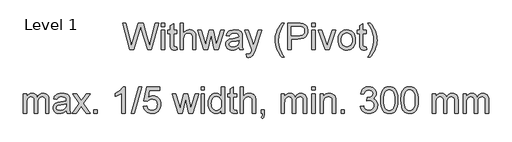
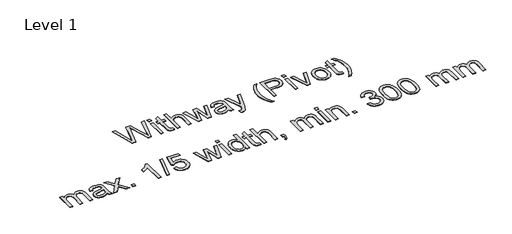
# One storey, part 75 of 80: 1 proxy.
"""IFC4 building model written with IfcOpenShell, lengths in millimetres."""

from ifc_helpers import new_model, si_unit, origin, origin_with_axes, place, context, project, spatial, polyline, outline, extrude, element, save

model = new_model("IFC4")

# Units and contexts
model_context = context("Model", 3, world=origin())
ifc_project = project(units=[si_unit("LENGTHUNIT", "METRE", prefix="MILLI")], contexts=[model_context])

# Site, building, storey
site = spatial("IfcSite", under=ifc_project)
building = spatial("IfcBuilding", under=site)
storey = spatial("IfcBuildingStorey", under=building, Name="Level 1", Elevation=0.0)

# Proxy
placement = place(None, origin())
element("IfcBuildingElementProxy", 1, Name="800mm Arial", ObjectType="800mm Arial", at=placement, inside=storey, context=model_context, shape_type="SweptSolid", body=[
    extrude(outline(polyline([(265942.2428784, 74494.5731746), (265724.245521, 75293.961873), (265827.2917204, 75293.961873), (265953.7575105, 74768.5823867), (265992.7901618, 74606.4017206), (266034.5550987, 74749.8467141), (266193.0276629, 75293.961873), (266341.5469011, 75293.961873), (266456.6932224, 74899.5369317), (266506.0207354, 74753.1644894), (266542.3698919, 74606.4017206), (266580.2315637, 74763.8984685), (266707.8683334, 75293.961873), (266810.9145328, 75293.961873), (266592.7220121, 74494.5731746), (266485.9677108, 74494.5731746), (266294.317393, 75111.289065), (266267.5800269, 75197.3560611), (266237.5248854, 75093.7243719), (266062.8537709, 74494.5731746), (265942.2428784, 74494.5731746)])), origin_with_axes(), (0.0, 0.0, 1.0), 5.0),
    extrude(outline(polyline([(266898.3476717, 74494.5731746), (266898.3476717, 75081.62425), (266998.271259, 75081.62425), (266998.271259, 74494.5731746), (266898.3476717, 74494.5731746)])), origin_with_axes(), (0.0, 0.0, 1.0), 5.0),
    extrude(outline(polyline([(266898.3476717, 75194.0382857), (266898.3476717, 75293.961873), (266998.271259, 75293.961873), (266998.271259, 75194.0382857), (266898.3476717, 75194.0382857)])), origin_with_axes(), (0.0, 0.0, 1.0), 5.0),
    extrude(outline(polyline([(267360.4942629, 74577.9078851), (267372.9847113, 74491.6457258), (267333.4153611, 74484.4734761), (267298.2371841, 74482.0827262), (267250.2758138, 74486.2299454), (267214.5121471, 74498.671603), (267189.2385054, 74517.846393), (267172.7472102, 74542.1930092), (267163.6721188, 74584.0067369), (267160.6470883, 74655.5828612), (267160.6470883, 74981.7006627), (267085.7043978, 74981.7006627), (267085.7043978, 75081.62425), (267160.6470883, 75081.62425), (267160.6470883, 75224.2885904), (267260.5706756, 75283.0327306), (267260.5706756, 75081.62425), (267360.4942629, 75081.62425), (267360.4942629, 74981.7006627), (267260.5706756, 74981.7006627), (267260.5706756, 74658.51031), (267261.8880276, 74625.6253013), (267265.8400835, 74606.9872104), (267272.7439837, 74596.6679532), (267282.9168685, 74588.7394459), (267297.334554, 74583.6895966), (267316.9728567, 74582.0063135), (267360.4942629, 74577.9078851)])), origin_with_axes(), (0.0, 0.0, 1.0), 5.0),
    extrude(outline(polyline([(267460.4178502, 74494.5731746), (267460.4178502, 75293.961873), (267560.3414375, 75293.961873), (267560.3414375, 75000.0460088), (267597.0443274, 75041.2010605), (267638.2603676, 75070.597526), (267683.9895581, 75088.2354053), (267734.231899, 75094.1146984), (267765.4702177, 75092.5107004), (267794.586136, 75087.6987063), (267821.5796539, 75079.6787163), (267846.4507714, 75068.4507302), (267868.5652079, 75054.3928769), (267887.2886828, 75037.8832851), (267902.6211961, 75018.921955), (267914.5627479, 74997.5088865), (267923.52806, 74972.3206287), (267929.9318543, 74942.0337308), (267935.0548898, 74866.1640149), (267935.0548898, 74494.5731746), (267835.1313025, 74494.5731746), (267835.1313025, 74855.8203623), (267833.1430769, 74889.5592103), (267827.1783998, 74918.370186), (267817.2372715, 74942.2532895), (267803.3196917, 74961.2085208), (267785.7549987, 74975.638404), (267764.8725302, 74985.9454635), (267740.6722864, 74992.1296992), (267713.1542673, 74994.1911111), (267670.9258177, 74988.6289583), (267631.2832812, 74971.9424999), (267613.4868317, 74959.8301803), (267598.4470633, 74945.7418327), (267586.1639758, 74929.6774572), (267576.6375694, 74911.6370536), (267564.4154705, 74866.3103873), (267560.3414375, 74806.4440584), (267560.3414375, 74494.5731746), (267460.4178502, 74494.5731746)])), origin_with_axes(), (0.0, 0.0, 1.0), 5.0),
    extrude(outline(polyline([(268169.8362873, 74494.5731746), (267991.2619077, 75081.62425), (268095.0887601, 75081.62425), (268196.3784902, 74739.112735), (268226.6287949, 74616.7453732), (268251.4145285, 74734.6239801), (268332.0169534, 75081.62425), (268451.0665398, 75081.62425), (268531.2786382, 74735.5997963), (268553.3320862, 74628.8454951), (268584.9485337, 74741.454694), (268686.4334271, 75081.62425), (268790.650606, 75081.62425), (268610.7100836, 74494.5731746), (268489.9040279, 74494.5731746), (268413.2048681, 74838.841159), (268390.9562568, 74946.18095), (268292.0084858, 74494.5731746), (268169.8362873, 74494.5731746)])), origin_with_axes(), (0.0, 0.0, 1.0), 5.0),
    extrude(outline(polyline([(269234.0615246, 74569.5158651), (269186.319713, 74528.5803721), (269161.9182071, 74513.4186266), (269137.1629678, 74501.7942151), (269085.4691003, 74487.0105985), (269030.1159217, 74482.0827262), (268985.624798, 74485.0467682), (268946.6104433, 74493.9388941), (268913.0728575, 74508.7591038), (268885.0120405, 74529.5073975), (268862.854912, 74554.8664232), (268847.0283917, 74583.5188288), (268837.5324795, 74615.4646143), (268834.3671755, 74650.7037798), (268839.1486752, 74692.127181), (268853.4931746, 74729.7448986), (268875.6198088, 74761.946836), (268903.7477131, 74787.122896), (268936.8034897, 74806.1513135), (268973.7137406, 74819.9103231), (269060.1710631, 74834.9378939), (269162.3390279, 74850.7461176), (269233.4760349, 74869.286627), (269234.0615246, 74891.5352382), (269232.3416484, 74915.7598774), (269227.1820198, 74936.1300423), (269218.5826389, 74952.6457329), (269206.5435055, 74965.3069492), (269185.7342233, 74977.94377), (269160.3873953, 74986.9700706), (269130.5030217, 74992.385851), (269096.0811023, 74994.1911111), (269036.5563091, 74989.3852159), (269013.5270449, 74983.3778469), (268994.9865355, 74974.9675304), (268979.7516038, 74963.4955902), (268966.6390725, 74948.3033504), (268955.6489416, 74929.3908111), (268946.7812112, 74906.7579722), (268846.8576239, 74919.2484206), (268864.2027583, 74973.8941324), (268876.0772227, 74996.8258151), (268890.0862852, 75016.8300489), (268906.8337321, 75034.309358), (268926.9233498, 75049.6662668), (268950.3551383, 75062.9007751), (268977.1290975, 75074.012883), (269038.5323371, 75089.0892445), (269108.9618773, 75094.1146984), (269176.5127594, 75089.6747343), (269230.0606779, 75076.3548421), (269270.4350765, 75056.3262129), (269298.4653993, 75031.760038), (269317.0546994, 75001.3877562), (269329.1060305, 74963.9408064), (269332.7653416, 74929.39691), (269333.9851119, 74876.5076675), (269333.9851119, 74752.1886731), (269335.2536731, 74643.8974612), (269339.0593566, 74578.5909565), (269346.573142, 74535.6794355), (269358.9660087, 74494.5731746), (269259.0424215, 74494.5731746), (269243.0390344, 74529.3122343), (269234.0615246, 74569.5158651)]), holes=[polyline([(269234.0615246, 74769.3630397), (269166.9253644, 74752.7253721), (269072.8566748, 74738.7224084), (269021.0164348, 74731.0622506), (268986.8872604, 74722.5238582), (268964.5166721, 74711.4483434), (268947.9521907, 74696.1768185), (268937.7061197, 74677.8802632), (268934.2907628, 74657.729657), (268936.1509125, 74642.2019804), (268941.7313619, 74628.0160512), (268951.0321108, 74615.1718694), (268964.0531594, 74603.669435), (268980.6725304, 74594.1918194), (269000.768247, 74587.4220939), (269051.3887166, 74582.0063135), (269105.0586121, 74587.9831883), (269129.5516008, 74595.4542817), (269152.4832834, 74605.9138124), (269190.930445, 74632.3340383), (269217.6678111, 74663.779718), (269229.5239789, 74696.1768185), (269233.4760349, 74741.0643675), (269234.0615246, 74769.3630397)])]), origin_with_axes(), (0.0, 0.0, 1.0), 5.0),
    extrude(outline(polyline([(269471.3800444, 74269.7451032), (269458.889596, 74365.9605887), (269486.1148703, 74359.3738288), (269509.6320427, 74357.1782421), (269536.320618, 74359.9349231), (269557.056714, 74368.2049661), (269573.2064735, 74381.4028813), (269586.1360392, 74398.943179), (269613.4588951, 74472.5197267), (269621.2654254, 74496.7199705), (269408.9278024, 75081.62425), (269514.3159609, 75081.62425), (269626.9251598, 74755.7016118), (269666.1529744, 74625.3325565), (269705.3807889, 74740.4788777), (269821.1126, 75081.62425), (269925.7201054, 75081.62425), (269721.3841759, 74480.5214202), (269691.0362896, 74400.6020667), (269668.2997702, 74350.1523649), (269641.1232867, 74308.5338005), (269610.336283, 74279.6984293), (269593.2473004, 74269.879278), (269574.5726163, 74262.8655984), (269532.4661437, 74257.2546548), (269503.5331909, 74260.3772669), (269471.3800444, 74269.7451032)])), origin_with_axes(), (0.0, 0.0, 1.0), 5.0),
    extrude(outline(polyline([(270520.577711, 74269.7451032), (270480.2399055, 74321.9390766), (270443.146689, 74378.4022463), (270409.2980617, 74439.1346121), (270378.6940236, 74504.1361742), (270353.334998, 74571.8822196), (270335.2214082, 74640.8480353), (270324.3532544, 74711.0336214), (270320.7305364, 74782.4389779), (270323.4384266, 74845.1961625), (270331.5620972, 74906.6115998), (270345.1015481, 74966.6852897), (270364.0567794, 75025.4172321), (270392.8677551, 75092.772951), (270428.5582356, 75159.9822974), (270471.1282209, 75227.0452714), (270520.577711, 75293.961873), (270595.5204015, 75293.961873), (270536.7274705, 75198.9661579), (270502.0372017, 75135.684472), (270470.1280092, 75060.5466183), (270445.8301838, 74982.2861525), (270426.9481388, 74882.3137744), (270420.6541237, 74781.8534881), (270423.3864093, 74717.797248), (270431.5832661, 74653.7532057), (270445.244694, 74589.721361), (270464.3706932, 74525.701714), (270488.9612635, 74461.6942648), (270519.016405, 74397.6990132), (270554.5361176, 74333.7159594), (270595.5204015, 74269.7451032), (270520.577711, 74269.7451032)])), origin_with_axes(), (0.0, 0.0, 1.0), 5.0),
    extrude(outline(polyline([(270707.9344372, 74494.5731746), (270707.9344372, 75293.961873), (271004.1922605, 75293.961873), (271073.1824716, 75292.0590312), (271123.6321734, 75286.350506), (271176.887347, 75272.1279837), (271220.7258935, 75248.9767424), (271239.3334902, 75233.7906015), (271256.0260475, 75215.8477796), (271283.6660437, 75171.6920928), (271294.0828825, 75146.2537821), (271301.5234816, 75119.6078988), (271307.475961, 75062.6934141), (271303.4568176, 75013.6220528), (271291.3993877, 74968.4783521), (271271.3036711, 74927.2623119), (271243.169668, 74889.9739322), (271225.4753743, 74873.4155496), (271204.5456397, 74859.0649514), (271180.3804643, 74846.9221376), (271152.9798481, 74836.9871081), (271088.472293, 74823.740402), (271011.0229744, 74819.3248333), (270807.8580245, 74819.3248333), (270807.8580245, 74494.5731746), (270707.9344372, 74494.5731746)]), holes=[polyline([(270807.8580245, 74919.2484206), (271016.8778721, 74919.2484206), (271064.936824, 74921.5415889), (271105.4819905, 74928.4210937), (271138.5133717, 74939.886935), (271164.0309675, 74955.9391128), (271183.0715827, 74976.1507076), (271196.6720221, 75000.0947996), (271204.8322858, 75027.7713889), (271207.5523737, 75059.1804755), (271205.9483756, 75082.5024846), (271201.1363816, 75104.0680245), (271193.1163915, 75123.877095), (271181.8884054, 75141.9296962), (271168.0501108, 75157.6403384), (271152.1991951, 75170.4235317), (271134.3356582, 75180.2792761), (271114.4595003, 75187.2075717), (271075.9147572, 75192.3306072), (271014.5359131, 75194.0382857), (270807.8580245, 75194.0382857), (270807.8580245, 74919.2484206)])]), origin_with_axes(), (0.0, 0.0, 1.0), 5.0),
    extrude(outline(polyline([(271432.3804451, 75194.0382857), (271432.3804451, 75293.961873), (271532.3040324, 75293.961873), (271532.3040324, 75194.0382857), (271432.3804451, 75194.0382857)])), origin_with_axes(), (0.0, 0.0, 1.0), 5.0),
    extrude(outline(polyline([(271432.3804451, 74494.5731746), (271432.3804451, 75081.62425), (271532.3040324, 75081.62425), (271532.3040324, 74494.5731746), (271432.3804451, 74494.5731746)])), origin_with_axes(), (0.0, 0.0, 1.0), 5.0),
    extrude(outline(polyline([(271826.2198965, 74494.5731746), (271619.7371712, 75081.62425), (271725.5156562, 75081.62425), (271850.6153036, 74729.9400619), (271888.2818121, 74611.6711285), (271925.1676676, 74723.3045112), (272051.047968, 75081.62425), (272156.8264529, 75081.62425), (271952.88085, 74494.5731746), (271826.2198965, 74494.5731746)])), origin_with_axes(), (0.0, 0.0, 1.0), 5.0),
    extrude(outline(polyline([(272219.278695, 74788.0987123), (272224.6822777, 74864.1269984), (272231.436756, 74898.1982338), (272240.8930257, 74929.640864), (272253.0510866, 74958.4548892), (272267.910939, 74984.6403092), (272285.4725826, 75008.1971242), (272305.7360176, 75029.125334), (272343.817248, 75057.5581809), (272385.8505344, 75077.8673573), (272431.8358767, 75090.0528631), (272481.7732749, 75094.1146984), (272536.900796, 75089.1685296), (272586.7467115, 75074.3300233), (272631.3110213, 75049.5991794), (272670.5937255, 75014.9759979), (272702.6553892, 74971.6314584), (272725.5565776, 74920.7365405), (272739.2972906, 74862.291244), (272743.8775283, 74796.2955691), (272741.8527095, 74742.8086391), (272735.7782531, 74695.3473747), (272725.6541592, 74653.9117758), (272711.4804277, 74618.5018425), (272693.4339254, 74587.9161009), (272671.6915188, 74560.9530772), (272646.2532081, 74537.6127715), (272617.1189932, 74517.8951838), (272585.4232606, 74502.2272336), (272552.3003967, 74491.0358406), (272517.7504015, 74484.3210048), (272481.7732749, 74482.0827262), (272425.8407054, 74487.0105985), (272375.5312772, 74501.7942151), (272330.8449903, 74526.4335763), (272291.7818448, 74560.9286818), (272260.0617167, 74604.6940421), (272237.4044824, 74657.1441673), (272223.8101419, 74718.2790573), (272219.278695, 74788.0987123)]), holes=[polyline([(272319.2022823, 74788.2938756), (272322.093138, 74739.8263006), (272330.7657052, 74697.8601016), (272345.2199839, 74662.3952786), (272365.4559741, 74633.4318316), (272390.0709398, 74610.9331674), (272417.6621452, 74594.862693), (272448.2295902, 74585.2204084), (272481.7732749, 74582.0063135), (272515.1461918, 74585.238705), (272545.5916598, 74594.9358793), (272573.1096789, 74611.0978364), (272597.7002492, 74633.7245765), (272617.9362394, 74662.9746695), (272632.3905181, 74699.0066858), (272641.0630853, 74741.8206251), (272643.953941, 74791.4164877), (272641.0447887, 74838.347152), (272632.3173318, 74879.2155577), (272617.7715704, 74914.0217047), (272597.4075043, 74942.765593), (272572.7254512, 74965.2642572), (272545.2257286, 74981.3347316), (272514.9083365, 74990.9770162), (272481.7732749, 74994.1911111), (272448.2295902, 74990.9892139), (272417.6621452, 74981.3835224), (272390.0709398, 74965.3740365), (272365.4559741, 74942.9607563), (272345.2199839, 74914.0826932), (272330.7657052, 74878.6788587), (272322.093138, 74836.7492528), (272319.2022823, 74788.2938756)])]), origin_with_axes(), (0.0, 0.0, 1.0), 5.0),
    extrude(outline(polyline([(273068.629187, 74577.9078851), (273081.1196354, 74491.6457258), (273041.5502852, 74484.4734761), (273006.3721082, 74482.0827262), (272958.4107379, 74486.2299454), (272922.6470712, 74498.671603), (272897.3734295, 74517.846393), (272880.8821343, 74542.1930092), (272871.8070429, 74584.0067369), (272868.7820124, 74655.5828612), (272868.7820124, 74981.7006627), (272793.8393219, 74981.7006627), (272793.8393219, 75081.62425), (272868.7820124, 75081.62425), (272868.7820124, 75224.2885904), (272968.7055997, 75283.0327306), (272968.7055997, 75081.62425), (273068.629187, 75081.62425), (273068.629187, 74981.7006627), (272968.7055997, 74981.7006627), (272968.7055997, 74658.51031), (272970.0229517, 74625.6253013), (272973.9750076, 74606.9872104), (272980.8789078, 74596.6679532), (272991.0517926, 74588.7394459), (273005.4694781, 74583.6895966), (273025.1077808, 74582.0063135), (273068.629187, 74577.9078851)])), origin_with_axes(), (0.0, 0.0, 1.0), 5.0),
    extrude(outline(polyline([(273193.5336711, 74269.7451032), (273118.5909806, 74269.7451032), (273159.5752645, 74333.7159594), (273195.0949772, 74397.6990132), (273225.1501186, 74461.6942648), (273249.740689, 74525.701714), (273268.8666881, 74589.721361), (273282.528116, 74653.7532057), (273290.7249728, 74717.797248), (273293.4572584, 74781.8534881), (273287.1632434, 74881.5819121), (273268.2811983, 74980.5296832), (273244.4224902, 75058.9365214), (273212.6596702, 75134.123166), (273177.823029, 75198.0879233), (273118.5909806, 75293.961873), (273193.5336711, 75293.961873), (273242.9831612, 75227.0452714), (273285.5531465, 75159.9822974), (273321.243627, 75092.772951), (273350.0546028, 75025.4172321), (273369.009834, 74966.6852897), (273382.549285, 74906.6115998), (273390.6729555, 74845.1961625), (273393.3808457, 74782.4389779), (273389.7398312, 74711.0336214), (273378.8167877, 74640.8480353), (273360.6117152, 74571.8822196), (273335.1246136, 74504.1361742), (273304.4290927, 74439.1346121), (273270.598762, 74378.4022463), (273233.6336214, 74321.9390766), (273193.5336711, 74269.7451032)])), origin_with_axes(), (0.0, 0.0, 1.0), 5.0),
    extrude(outline(polyline([(262732.7831264, 72573.0368789), (262732.7831264, 73160.0879542), (262832.7067137, 73160.0879542), (262832.7067137, 73063.4821423), (262862.7618552, 73107.8573877), (262881.0096197, 73126.4405891), (262901.40418, 73142.6208428), (262923.6161981, 73155.7272752), (262947.316336, 73165.0890127), (262972.5045938, 73170.7060552), (262999.1809714, 73172.5784027), (263028.3456806, 73170.6694621), (263054.7537087, 73164.9426403), (263078.4050558, 73155.3979372), (263099.299722, 73142.035353), (263117.3767186, 73125.2330164), (263132.5750572, 73105.3690562), (263144.8947378, 73082.4434724), (263154.3357603, 73056.4562651), (263190.758103, 73107.2597003), (263210.8904127, 73127.2181927), (263232.3034812, 73143.5478683), (263254.9973086, 73156.2487271), (263278.9718949, 73165.3207691), (263304.2272401, 73170.7639943), (263330.7633441, 73172.5784027), (263370.7657128, 73169.559471), (263405.8768024, 73160.5026762), (263436.0966129, 73145.4080181), (263461.4251443, 73124.2754967), (263481.4476746, 73096.861158), (263495.749482, 73062.921048), (263504.3305664, 73022.4551665), (263507.1909279, 72975.4635137), (263507.1909279, 72573.0368789), (263407.2673406, 72573.0368789), (263407.2673406, 72932.5275972), (263404.949777, 72982.3674139), (263397.9970859, 73015.9598894), (263384.9699386, 73038.9647582), (263364.4290058, 73057.0417549), (263338.00878, 73068.7515502), (263307.3437533, 73072.6548154), (263279.0267846, 73070.1542861), (263253.2103451, 73062.6526985), (263229.8944348, 73050.1500524), (263209.0790537, 73032.6463478), (263191.9595768, 73009.6292812), (263179.731379, 72980.5865491), (263172.3944604, 72945.5181515), (263169.9488208, 72904.4240883), (263169.9488208, 72573.0368789), (263070.0252335, 72573.0368789), (263070.0252335, 72943.6519029), (263068.5798056, 72973.926603), (263064.243522, 73000.1516656), (263057.0163827, 73022.3270906), (263046.8983876, 73040.4528781), (263033.4870126, 73054.5412256), (263016.3797334, 73064.604331), (262995.57655, 73070.6421943), (262971.0774625, 73072.6548154), (262932.5815102, 73067.2878258), (262897.1105883, 73051.1868572), (262881.3023645, 73039.2087123), (262867.8360998, 73024.7422359), (262856.7117942, 73007.787428), (262847.9294477, 72988.3442886), (262836.5123972, 72937.845796), (262832.7067137, 72869.0995389), (262832.7067137, 72573.0368789), (262732.7831264, 72573.0368789)])), origin_with_axes(), (0.0, 0.0, 1.0), 5.0),
    extrude(outline(polyline([(264031.7897612, 72647.9795694), (263984.0479496, 72607.0440763), (263959.6464437, 72591.8823309), (263934.8912044, 72580.2579194), (263883.1973368, 72565.4743027), (263827.8441582, 72560.5464305), (263783.3530346, 72563.5104724), (263744.3386799, 72572.4025983), (263710.801094, 72587.2228081), (263682.7402771, 72607.9711018), (263660.5831486, 72633.3301274), (263644.7566283, 72661.982533), (263635.2607161, 72693.9283186), (263632.095412, 72729.167484), (263636.8769118, 72770.5908852), (263651.2214112, 72808.2086029), (263673.3480454, 72840.4105402), (263701.4759497, 72865.5866003), (263734.5317262, 72884.6150178), (263771.4419771, 72898.3740274), (263857.8992997, 72913.4015981), (263960.0672645, 72929.2098219), (264031.2042714, 72947.7503312), (264031.7897612, 72969.9989425), (264030.069885, 72994.2235817), (264024.9102564, 73014.5937466), (264016.3108754, 73031.1094372), (264004.271742, 73043.7706534), (263983.4624598, 73056.4074743), (263958.1156319, 73065.4337749), (263928.2312583, 73070.8495552), (263893.8093389, 73072.6548154), (263834.2845457, 73067.8489202), (263811.2552814, 73061.8415512), (263792.7147721, 73053.4312346), (263777.4798404, 73041.9592944), (263764.3673091, 73026.7670547), (263753.3771782, 73007.8545154), (263744.5094477, 72985.2216765), (263644.5858604, 72997.7121249), (263661.9309949, 73052.3578367), (263673.8054592, 73075.2895193), (263687.8145217, 73095.2937531), (263704.5619687, 73112.7730623), (263724.6515864, 73128.129971), (263748.0833749, 73141.3644793), (263774.8573341, 73152.4765872), (263836.2605737, 73167.5529488), (263906.6901138, 73172.5784027), (263974.240996, 73168.1384386), (264027.7889144, 73154.8185463), (264068.1633131, 73134.7899171), (264096.1936358, 73110.2237422), (264114.782936, 73079.8514604), (264126.8342671, 73042.4045106), (264130.4935781, 73007.8606142), (264131.7133485, 72954.9713717), (264131.7133485, 72830.6523774), (264132.9819097, 72722.3611655), (264136.7875932, 72657.0546608), (264144.3013785, 72614.1431398), (264156.6942453, 72573.0368789), (264056.770658, 72573.0368789), (264040.767271, 72607.7759385), (264031.7897612, 72647.9795694)]), holes=[polyline([(264031.7897612, 72847.826744), (263964.653601, 72831.1890763), (263870.5849114, 72817.1861127), (263818.7446714, 72809.5259549), (263784.6154969, 72800.9875624), (263762.2449087, 72789.9120476), (263745.6804273, 72774.6405228), (263735.4343563, 72756.3439675), (263732.0189993, 72736.1933613), (263733.8791491, 72720.6656847), (263739.4595985, 72706.4797555), (263748.7603474, 72693.6355737), (263761.7813959, 72682.1331392), (263778.400767, 72672.6555236), (263798.4964835, 72665.8857981), (263849.1169532, 72660.4700178), (263902.7868487, 72666.4468925), (263927.2798374, 72673.9179859), (263950.21152, 72684.3775167), (263988.6586815, 72710.7977425), (264015.3960477, 72742.2434222), (264027.2522155, 72774.6405228), (264031.2042714, 72819.5280718), (264031.7897612, 72847.826744)])]), origin_with_axes(), (0.0, 0.0, 1.0), 5.0),
    extrude(outline(polyline([(264206.656039, 72573.0368789), (264420.1646415, 72868.1237226), (264219.1464874, 73160.0879542), (264339.3670533, 73160.0879542), (264436.3631918, 73019.5704096), (264481.6410673, 72953.2149024), (264520.8688818, 73007.4702877), (264631.331285, 73160.0879542), (264751.5518509, 73160.0879542), (264540.3852075, 72868.1237226), (264743.7453207, 72573.0368789), (264623.5247547, 72573.0368789), (264501.1573929, 72750.440279), (264478.7136184, 72782.8373796), (264326.8766049, 72573.0368789), (264206.656039, 72573.0368789)])), origin_with_axes(), (0.0, 0.0, 1.0), 5.0),
    extrude(outline(polyline([(264856.1593564, 72573.0368789), (264856.1593564, 72672.9604662), (264956.0829437, 72672.9604662), (264956.0829437, 72573.0368789), (264856.1593564, 72573.0368789)])), origin_with_axes(), (0.0, 0.0, 1.0), 5.0),
    extrude(outline(polyline([(265805.4334356, 72573.0368789), (265705.5098484, 72573.0368789), (265705.5098484, 73195.9979934), (265663.7937023, 73162.2591455), (265610.855669, 73128.5690883), (265555.2829317, 73099.123832), (265505.6626738, 73078.1193865), (265505.6626738, 73172.5784027), (265584.1426983, 73215.270365), (265619.4489511, 73239.6535744), (265652.1326977, 73266.0616025), (265705.729407, 73320.0730337), (265725.6665534, 73346.4566664), (265741.029561, 73372.4255772), (265805.4334356, 73372.4255772), (265805.4334356, 72573.0368789)])), origin_with_axes(), (0.0, 0.0, 1.0), 5.0),
    extrude(outline(polyline([(265992.7901618, 72573.0368789), (266217.6182332, 73372.4255772), (266307.7836577, 73372.4255772), (266082.9555863, 72573.0368789), (265992.7901618, 72573.0368789)])), origin_with_axes(), (0.0, 0.0, 1.0), 5.0),
    extrude(outline(polyline([(266355.0131658, 72785.3745019), (266454.936753, 72797.8649503), (266462.4017476, 72765.7422981), (266473.2820992, 72737.8766444), (266487.5778077, 72714.2679892), (266505.2888732, 72694.9163325), (266526.3787026, 72679.8460698), (266550.8107028, 72669.0815965), (266578.5848737, 72662.6229125), (266609.7012154, 72660.4700178), (266647.7580504, 72663.464554), (266681.3261305, 72672.4481626), (266710.4054557, 72687.4208437), (266734.996026, 72708.3825972), (266754.5489448, 72734.2966184), (266768.5153153, 72764.1261024), (266776.8951376, 72797.8710492), (266779.6884118, 72835.5314588), (266777.0720043, 72871.1243577), (266769.2227821, 72902.7652006), (266756.1407451, 72930.4539876), (266737.8258932, 72954.1907187), (266714.2172381, 72973.2313339), (266685.253791, 72986.8317734), (266650.9355522, 72994.992037), (266611.2625215, 72997.7121249), (266562.7888476, 72993.3697424), (266523.5366377, 72980.3425951), (266492.1885396, 72960.3871521), (266467.4272015, 72935.2598828), (266367.5036142, 72947.7503312), (266454.936753, 73359.9351288), (266842.1406538, 73359.9351288), (266842.1406538, 73260.0115415), (266535.7343412, 73260.0115415), (266492.9935881, 73039.8673883), (266528.257149, 73065.14103), (266564.3745491, 73083.1936312), (266601.3457885, 73094.0251919), (266639.1708671, 73097.6357122), (266687.8336053, 73093.159155), (266732.5320899, 73079.7294834), (266773.2663208, 73057.3466974), (266810.0362981, 73026.0107971), (266840.4756673, 72987.6368218), (266862.2180738, 72944.139811), (266875.2635177, 72895.5197647), (266879.611999, 72841.776683), (266875.6965362, 72790.0096292), (266863.9501477, 72741.8530957), (266844.3728336, 72697.3070824), (266816.9645937, 72656.3715894), (266797.0701393, 72633.9125678), (266775.4436109, 72614.4480824), (266752.0850087, 72597.9781332), (266726.9943325, 72584.5027202), (266700.1715825, 72574.0218435), (266671.6167585, 72566.5355029), (266609.3108889, 72560.5464305), (266557.7450972, 72564.394806), (266511.1681663, 72575.9399323), (266469.5800961, 72595.1818097), (266432.9808867, 72622.1204379), (266402.5293198, 72655.4140697), (266379.3841774, 72693.7209576), (266363.5454594, 72737.0411017), (266355.0131658, 72785.3745019)])), origin_with_axes(), (0.0, 0.0, 1.0), 5.0),
    extrude(outline(polyline([(267401.67371, 72573.0368789), (267223.0993304, 73160.0879542), (267326.9261828, 73160.0879542), (267428.2159129, 72817.5764392), (267458.4662176, 72695.2090774), (267483.2519512, 72813.0876843), (267563.8543761, 73160.0879542), (267682.9039625, 73160.0879542), (267763.1160609, 72814.0635006), (267785.1695089, 72707.3091993), (267816.7859564, 72819.9183983), (267918.2708498, 73160.0879542), (268022.4880287, 73160.0879542), (267842.5475063, 72573.0368789), (267721.7414505, 72573.0368789), (267645.0422908, 72917.3048632), (267622.7936795, 73024.6446543), (267523.8459085, 72573.0368789), (267401.67371, 72573.0368789)])), origin_with_axes(), (0.0, 0.0, 1.0), 5.0),
    extrude(outline(polyline([(268091.185495, 73272.50199), (268091.185495, 73372.4255772), (268191.1090823, 73372.4255772), (268191.1090823, 73272.50199), (268091.185495, 73272.50199)])), origin_with_axes(), (0.0, 0.0, 1.0), 5.0),
    extrude(outline(polyline([(268091.185495, 72573.0368789), (268091.185495, 73160.0879542), (268191.1090823, 73160.0879542), (268191.1090823, 72573.0368789), (268091.185495, 72573.0368789)])), origin_with_axes(), (0.0, 0.0, 1.0), 5.0),
    extrude(outline(polyline([(268703.2174671, 72573.0368789), (268703.2174671, 72667.3007318), (268673.3208958, 72620.595725), (268656.0032062, 72602.2473294), (268637.105914, 72587.2350058), (268616.6290192, 72575.5587541), (268594.5725218, 72567.2185743), (268570.9364218, 72562.2144664), (268545.7207192, 72560.5464305), (268512.7381289, 72562.9615758), (268481.1216813, 72570.2070117), (268450.8713766, 72582.2827382), (268421.9872146, 72599.1887553), (268395.3718255, 72620.4188583), (268371.9278393, 72645.4668424), (268351.6552561, 72674.3327078), (268334.5540757, 72707.0164544), (268320.9780317, 72742.8959994), (268311.2808574, 72781.3492597), (268305.4625528, 72822.3762355), (268303.523118, 72865.9769268), (268305.3100815, 72908.7786685), (268310.6709722, 72949.5555914), (268319.6057901, 72988.3076955), (268332.114535, 73025.0349808), (268348.1911083, 73058.6640494), (268367.829411, 73088.1215034), (268391.0294431, 73113.4073428), (268417.7912046, 73134.5215677), (268447.1693736, 73151.171433), (268478.2186279, 73163.0641939), (268510.9389676, 73170.1998505), (268545.3303927, 73172.5784027), (268570.4820574, 73170.876823), (268594.2187884, 73165.7720841), (268616.5405859, 73157.2641859), (268637.4474497, 73145.3531284), (268674.0893511, 73114.0538211), (268703.2174671, 73074.6064479), (268703.2174671, 73372.4255772), (268803.1410544, 73372.4255772), (268803.1410544, 72573.0368789), (268703.2174671, 72573.0368789)]), holes=[polyline([(268403.4467053, 72866.3672533), (268406.2643748, 72817.9118761), (268414.7173833, 72775.9822702), (268428.8057309, 72740.5784357), (268448.5294175, 72711.7003726), (268472.083183, 72689.2870924), (268497.6617673, 72673.2776065), (268525.2651704, 72663.671915), (268554.8933922, 72660.4700178), (268584.6618877, 72663.5255425), (268612.1006218, 72672.6921167), (268637.2095945, 72687.9697404), (268659.9888058, 72709.3584135), (268678.9013452, 72737.028904), (268692.4103018, 72771.1519796), (268700.5156758, 72811.7276404), (268703.2174671, 72858.7558863), (268700.466885, 72910.3155791), (268692.2151386, 72954.5322544), (268678.4622278, 72991.4059122), (268659.2081528, 73020.9365524), (268635.9288356, 73043.5632925), (268610.1001984, 73059.7252496), (268581.7222412, 73069.4224239), (268550.7949639, 73072.6548154), (268520.5812522, 73069.5504998), (268492.9778491, 73060.2375532), (268467.9847546, 73044.7159754), (268445.6019686, 73022.9857666), (268427.1590409, 72994.5712162), (268413.9855211, 72958.9966139), (268406.0814092, 72916.2619596), (268403.4467053, 72866.3672533)])]), origin_with_axes(), (0.0, 0.0, 1.0), 5.0),
    extrude(outline(polyline([(269165.3640584, 72656.3715894), (269177.8545068, 72570.1094301), (269138.2851565, 72562.9371804), (269103.1069796, 72560.5464305), (269055.1456093, 72564.6936497), (269019.3819426, 72577.1353073), (268994.1083008, 72596.3100972), (268977.6170057, 72620.6567135), (268968.5419143, 72662.4704412), (268965.5168838, 72734.0465655), (268965.5168838, 73060.164367), (268890.5741933, 73060.164367), (268890.5741933, 73160.0879542), (268965.5168838, 73160.0879542), (268965.5168838, 73302.7522947), (269065.4404711, 73361.4964349), (269065.4404711, 73160.0879542), (269165.3640584, 73160.0879542), (269165.3640584, 73060.164367), (269065.4404711, 73060.164367), (269065.4404711, 72736.9740143), (269066.7578231, 72704.0890056), (269070.709879, 72685.4509146), (269077.6137792, 72675.1316574), (269087.7866639, 72667.2031501), (269102.2043495, 72662.1533009), (269121.8426522, 72660.4700178), (269165.3640584, 72656.3715894)])), origin_with_axes(), (0.0, 0.0, 1.0), 5.0),
    extrude(outline(polyline([(269265.2876457, 72573.0368789), (269265.2876457, 73372.4255772), (269365.211233, 73372.4255772), (269365.211233, 73078.5097131), (269401.9141229, 73119.6647648), (269443.1301631, 73149.0612303), (269488.8593536, 73166.6991096), (269539.1016944, 73172.5784027), (269570.3400132, 73170.9744046), (269599.4559315, 73166.1624106), (269626.4494494, 73158.1424205), (269651.3205669, 73146.9144344), (269673.4350034, 73132.8565811), (269692.1584783, 73116.3469894), (269707.4909916, 73097.3856593), (269719.4325434, 73075.9725907), (269728.3978555, 73050.7843329), (269734.8016498, 73020.4974351), (269739.9246853, 72944.6277191), (269739.9246853, 72573.0368789), (269640.001098, 72573.0368789), (269640.001098, 72934.2840666), (269638.0128723, 72968.0229145), (269632.0481953, 72996.8338902), (269622.1070669, 73020.7169937), (269608.1894872, 73039.672225), (269590.6247941, 73054.1021083), (269569.7423257, 73064.4091678), (269545.5420819, 73070.5934035), (269518.0240627, 73072.6548154), (269475.7956131, 73067.0926626), (269436.1530767, 73050.4062041), (269418.3566272, 73038.2938845), (269403.3168588, 73024.205537), (269391.0337713, 73008.1411614), (269381.5073649, 72990.1007579), (269369.2852659, 72944.7740916), (269365.211233, 72884.9077627), (269365.211233, 72573.0368789), (269265.2876457, 72573.0368789)])), origin_with_axes(), (0.0, 0.0, 1.0), 5.0),
    extrude(outline(polyline([(269902.3005147, 72573.0368789), (269902.3005147, 72672.9604662), (270002.2241019, 72672.9604662), (270002.2241019, 72573.0368789), (269997.735347, 72515.8784402), (269984.2690824, 72470.8689142), (269973.9742206, 72452.5052715), (269961.0446548, 72436.3494132), (269945.4803851, 72422.4013392), (269927.2814115, 72410.6610496), (269902.3005147, 72448.1323948), (269923.9636361, 72466.2337868), (269938.9912069, 72491.2634745), (269948.1150891, 72525.9537433), (269952.067145, 72573.0368789), (269902.3005147, 72573.0368789)])), origin_with_axes(), (0.0, 0.0, 1.0), 5.0),
    extrude(outline(polyline([(270501.8420384, 72573.0368789), (270501.8420384, 73160.0879542), (270601.7656257, 73160.0879542), (270601.7656257, 73063.4821423), (270631.8207672, 73107.8573877), (270650.0685317, 73126.4405891), (270670.463092, 73142.6208428), (270692.6751101, 73155.7272752), (270716.375248, 73165.0890127), (270741.5635058, 73170.7060552), (270768.2398834, 73172.5784027), (270797.4045926, 73170.6694621), (270823.8126207, 73164.9426403), (270847.4639678, 73155.3979372), (270868.358634, 73142.035353), (270886.4356306, 73125.2330164), (270901.6339692, 73105.3690562), (270913.9536498, 73082.4434724), (270923.3946723, 73056.4562651), (270959.817015, 73107.2597003), (270979.9493247, 73127.2181927), (271001.3623932, 73143.5478683), (271024.0562207, 73156.2487271), (271048.0308069, 73165.3207691), (271073.2861521, 73170.7639943), (271099.8222561, 73172.5784027), (271139.8246248, 73169.559471), (271174.9357144, 73160.5026762), (271205.1555249, 73145.4080181), (271230.4840563, 73124.2754967), (271250.5065866, 73096.861158), (271264.808394, 73062.921048), (271273.3894784, 73022.4551665), (271276.2498399, 72975.4635137), (271276.2498399, 72573.0368789), (271176.3262526, 72573.0368789), (271176.3262526, 72932.5275972), (271174.008689, 72982.3674139), (271167.055998, 73015.9598894), (271154.0288506, 73038.9647582), (271133.4879178, 73057.0417549), (271107.067692, 73068.7515502), (271076.4026653, 73072.6548154), (271048.0856966, 73070.1542861), (271022.2692571, 73062.6526985), (270998.9533468, 73050.1500524), (270978.1379657, 73032.6463478), (270961.0184888, 73009.6292812), (270948.790291, 72980.5865491), (270941.4533724, 72945.5181515), (270939.0077328, 72904.4240883), (270939.0077328, 72573.0368789), (270839.0841455, 72573.0368789), (270839.0841455, 72943.6519029), (270837.6387177, 72973.926603), (270833.302434, 73000.1516656), (270826.0752947, 73022.3270906), (270815.9572996, 73040.4528781), (270802.5459246, 73054.5412256), (270785.4386454, 73064.604331), (270764.635462, 73070.6421943), (270740.1363745, 73072.6548154), (270701.6404222, 73067.2878258), (270666.1695003, 73051.1868572), (270650.3612766, 73039.2087123), (270636.8950119, 73024.7422359), (270625.7707062, 73007.787428), (270616.9883597, 72988.3442886), (270605.5713092, 72937.845796), (270601.7656257, 72869.0995389), (270601.7656257, 72573.0368789), (270501.8420384, 72573.0368789)])), origin_with_axes(), (0.0, 0.0, 1.0), 5.0),
    extrude(outline(polyline([(271426.1352209, 73272.50199), (271426.1352209, 73372.4255772), (271526.0588082, 73372.4255772), (271526.0588082, 73272.50199), (271426.1352209, 73272.50199)])), origin_with_axes(), (0.0, 0.0, 1.0), 5.0),
    extrude(outline(polyline([(271426.1352209, 72573.0368789), (271426.1352209, 73160.0879542), (271526.0588082, 73160.0879542), (271526.0588082, 72573.0368789), (271426.1352209, 72573.0368789)])), origin_with_axes(), (0.0, 0.0, 1.0), 5.0),
    extrude(outline(polyline([(271675.9441891, 72573.0368789), (271675.9441891, 73160.0879542), (271775.8677764, 73160.0879542), (271775.8677764, 73078.1193865), (271792.3529727, 73100.2582184), (271810.5824406, 73119.4452061), (271830.5561802, 73135.6803495), (271852.2741913, 73148.9636486), (271875.736474, 73159.2951035), (271900.9430284, 73166.6747142), (271956.5889518, 73172.5784027), (272005.8432787, 73167.8212983), (272050.9503863, 73153.5499852), (272088.568104, 73131.545328), (272115.354261, 73103.5881915), (272133.5288392, 73069.7517619), (272145.3118208, 73030.1092255), (272149.2638768, 72992.1987629), (272150.5812287, 72933.5034135), (272150.5812287, 72573.0368789), (272050.6576414, 72573.0368789), (272050.6576414, 72920.0371488), (272047.7789834, 72971.706621), (272039.1430093, 73008.446104), (272023.2128085, 73034.7687482), (271998.4514703, 73055.1877039), (271966.7130458, 73068.2880375), (271929.8515857, 73072.6548154), (271899.5097982, 73070.203077), (271871.3270042, 73062.8478617), (271845.3032037, 73050.5891697), (271821.4383968, 73033.4270008), (271801.5012504, 73009.4097226), (271787.2604315, 72976.5857024), (271778.7159402, 72934.9549403), (271775.8677764, 72884.5174362), (271775.8677764, 72573.0368789), (271675.9441891, 72573.0368789)])), origin_with_axes(), (0.0, 0.0, 1.0), 5.0),
    extrude(outline(polyline([(272312.9570581, 72573.0368789), (272312.9570581, 72672.9604662), (272412.8806454, 72672.9604662), (272412.8806454, 72573.0368789), (272312.9570581, 72573.0368789)])), origin_with_axes(), (0.0, 0.0, 1.0), 5.0),
    extrude(outline(polyline([(272887.517685, 72785.3745019), (272987.4412723, 72797.8649503), (272997.327511, 72763.9187414), (273009.8118606, 72735.0711726), (273024.894321, 72711.3222438), (273042.5748923, 72692.6719551), (273063.2560986, 72678.5836075), (273087.3404642, 72668.5205021), (273114.8279891, 72662.4826389), (273145.7186733, 72660.4700178), (273181.9214573, 72663.2388965), (273214.2209763, 72671.5455326), (273242.6172301, 72685.3899261), (273267.1102188, 72704.772077), (273286.8339054, 72728.2404586), (273300.922253, 72754.3435441), (273309.3752615, 72783.0813336), (273312.192931, 72814.4538271), (273309.3996569, 72844.3321019), (273301.0198346, 72871.5146842), (273287.053464, 72896.001574), (273267.5005453, 72917.7927714), (273243.6418372, 72935.6807036), (273216.7580986, 72948.4577981), (273186.8493296, 72956.1240547), (273153.91553, 72958.6794736), (273122.3478733, 72955.947188), (273083.851921, 72947.7503312), (273094.9762266, 73047.6739185), (273110.9796136, 73046.502939), (273141.7056288, 73048.2960014), (273170.8459425, 73053.6751887), (273198.4005548, 73062.6405008), (273224.3694656, 73075.1919377), (273246.3985182, 73091.4636742), (273262.1335557, 73111.589885), (273271.5745783, 73135.5705702), (273274.7215858, 73163.4057296), (273272.4406152, 73186.0019754), (273265.5977035, 73206.5612047), (273254.1928507, 73225.0834175), (273238.2260568, 73241.5686138), (273218.6609404, 73255.1019659), (273196.46112, 73264.7686459), (273171.6265956, 73270.5686539), (273144.1573672, 73272.50199), (273116.7613251, 73270.5503574), (273091.7560329, 73264.6954597), (273069.1414905, 73254.9372969), (273048.9176981, 73241.2758689), (273031.5847614, 73223.7111758), (273017.6427862, 73202.2432176), (273007.0917727, 73176.8719943), (272999.9317207, 73147.5975058), (272900.0081334, 73160.0879542), (272911.8521036, 73207.7931727), (272929.4289943, 73249.8142614), (272952.7388058, 73286.1512202), (272981.7815379, 73316.8040492), (273015.6423629, 73341.1384677), (273053.406453, 73358.5201952), (273095.0738082, 73368.9492317), (273140.6444286, 73372.4255772), (273172.6938946, 73370.7117999), (273203.4626018, 73365.5704679), (273232.9505501, 73357.0015811), (273261.1577395, 73345.0051397), (273287.1022549, 73330.0385575), (273309.8021811, 73312.5592483), (273329.2575182, 73292.5672123), (273345.4682662, 73270.0624492), (273358.233163, 73245.9414905), (273367.3509464, 73221.1008673), (273372.8216164, 73195.5405795), (273374.6451731, 73169.2606273), (273372.9130992, 73144.54808), (273367.7168775, 73120.9577213), (273359.056508, 73098.4895514), (273346.9319907, 73077.1435703), (273331.4165118, 73057.4198837), (273312.5832575, 73039.8185975), (273290.4322279, 73024.3397117), (273264.963423, 73010.9832263), (273298.2631536, 73000.5663875), (273327.5132466, 72985.7095846), (273352.7137021, 72966.4128176), (273373.86452, 72942.6760866), (273390.5997693, 72915.0848812), (273402.5535187, 72884.2246913), (273409.7257684, 72850.0955168), (273412.1165183, 72812.6973578), (273407.3350185, 72762.0037019), (273392.9905192, 72715.3108928), (273369.0830203, 72672.6189305), (273335.6125218, 72633.9278149), (273294.8355989, 72601.8234592), (273249.0088267, 72578.8917766), (273198.1322053, 72565.132767), (273142.2057347, 72560.5464305), (273091.6584512, 72564.4618933), (273045.5999227, 72576.2082818), (273004.0301491, 72595.785596), (272966.9491304, 72623.1938358), (272935.8571841, 72656.8229044), (272912.2546278, 72695.062705), (272896.1414614, 72737.9132375), (272887.517685, 72785.3745019)])), origin_with_axes(), (0.0, 0.0, 1.0), 5.0),
    extrude(outline(polyline([(273499.5496572, 72966.2908406), (273501.3854116, 73033.5062859), (273506.8926747, 73094.2447506), (273516.0714466, 73148.5062347), (273528.9217273, 73196.2907383), (273545.388627, 73237.9885878), (273565.4172562, 73273.9901098), (273589.0076149, 73304.2953042), (273616.1597029, 73328.9041711), (273646.9650032, 73347.9447863), (273681.5149984, 73361.5452257), (273719.8096886, 73369.7054894), (273761.8490738, 73372.4255772), (273793.441126, 73370.8154804), (273823.4230812, 73365.9851898), (273851.7949396, 73357.9347055), (273878.5567012, 73346.6640274), (273903.0618876, 73332.36222), (273924.6640205, 73315.2183477), (273943.3631, 73295.2324105), (273959.1591261, 73272.4044083), (273985.2134208, 73218.5881404), (274005.9983076, 73154.1354749), (274013.9390126, 73116.2311112), (274019.6109448, 73072.2888843), (274024.1484905, 72966.2908406), (274022.3310327, 72899.5023149), (274016.8786592, 72839.0687928), (274007.79137, 72784.9902742), (273995.0691653, 72737.2667592), (273978.7303414, 72695.5506131), (273958.793195, 72659.4942015), (273935.257726, 72629.0975243), (273908.1239345, 72604.3605816), (273877.2820412, 72585.1918905), (273842.6222666, 72571.4999683), (273804.1446108, 72563.2848149), (273761.8490738, 72560.5464305), (273706.8130355, 72565.3035349), (273658.0222214, 72579.574848), (273615.4766315, 72603.3603699), (273579.1762658, 72636.6601005), (273560.5137794, 72664.9069324), (273544.3396245, 72696.8557674), (273530.6538012, 72732.5066054), (273519.4563093, 72771.8594464), (273504.5263202, 72861.6711375), (273499.5496572, 72966.2908406)]), holes=[polyline([(273599.4732445, 72966.4860039), (273602.4006933, 72879.6200582), (273611.1830399, 72809.3063962), (273625.8202841, 72755.5450179), (273635.3344929, 72734.8714352), (273646.312426, 72718.3359233), (273671.0981596, 72693.0195896), (273698.6161787, 72674.9364942), (273728.8664835, 72664.0866369), (273761.8490738, 72660.4700178), (273794.8316642, 72664.0988346), (273825.0819689, 72674.985285), (273852.5999881, 72693.129369), (273877.3857216, 72718.5310866), (273888.3636548, 72735.106241), (273897.8778636, 72755.8011697), (273912.5151078, 72809.5503503), (273921.2974543, 72879.7786283), (273924.2249032, 72966.4860039), (273921.395036, 73051.0526824), (273912.9054343, 73120.1282775), (273898.7560982, 73173.7127891), (273878.9470277, 73211.8062172), (273854.576016, 73238.3606178), (273826.7408566, 73257.3280468), (273795.4415493, 73268.7085042), (273760.6780943, 73272.50199), (273727.8662718, 73269.1598192), (273698.1282706, 73259.1333069), (273671.4640907, 73242.4224531), (273647.8737321, 73219.0272577), (273626.6985188, 73177.5550657), (273611.5733664, 73121.6407927), (273602.498275, 73051.2844388), (273599.4732445, 72966.4860039)])]), origin_with_axes(), (0.0, 0.0, 1.0), 5.0),
    extrude(outline(polyline([(274111.5816294, 72966.2908406), (274113.4173837, 73033.5062859), (274118.9246469, 73094.2447506), (274128.1034188, 73148.5062347), (274140.9536995, 73196.2907383), (274157.4205992, 73237.9885878), (274177.4492284, 73273.9901098), (274201.039587, 73304.2953042), (274228.1916751, 73328.9041711), (274258.9969753, 73347.9447863), (274293.5469706, 73361.5452257), (274331.8416608, 73369.7054894), (274373.881046, 73372.4255772), (274405.4730981, 73370.8154804), (274435.4550534, 73365.9851898), (274463.8269118, 73357.9347055), (274490.5886733, 73346.6640274), (274515.0938597, 73332.36222), (274536.6959927, 73315.2183477), (274555.3950722, 73295.2324105), (274571.1910983, 73272.4044083), (274597.245393, 73218.5881404), (274618.0302798, 73154.1354749), (274625.9709848, 73116.2311112), (274631.6429169, 73072.2888843), (274636.1804626, 72966.2908406), (274634.3630048, 72899.5023149), (274628.9106313, 72839.0687928), (274619.8233422, 72784.9902742), (274607.1011374, 72737.2667592), (274590.7623136, 72695.5506131), (274570.8251671, 72659.4942015), (274547.2896982, 72629.0975243), (274520.1559067, 72604.3605816), (274489.3140133, 72585.1918905), (274454.6542388, 72571.4999683), (274416.176583, 72563.2848149), (274373.881046, 72560.5464305), (274318.8450077, 72565.3035349), (274270.0541936, 72579.574848), (274227.5086037, 72603.3603699), (274191.208238, 72636.6601005), (274172.5457516, 72664.9069324), (274156.3715967, 72696.8557674), (274142.6857734, 72732.5066054), (274131.4882815, 72771.8594464), (274116.5582924, 72861.6711375), (274111.5816294, 72966.2908406)]), holes=[polyline([(274211.5052167, 72966.4860039), (274214.4326655, 72879.6200582), (274223.215012, 72809.3063962), (274237.8522563, 72755.5450179), (274247.366465, 72734.8714352), (274258.3443982, 72718.3359233), (274283.1301318, 72693.0195896), (274310.6481509, 72674.9364942), (274340.8984557, 72664.0866369), (274373.881046, 72660.4700178), (274406.8636363, 72664.0988346), (274437.1139411, 72674.985285), (274464.6319602, 72693.129369), (274489.4176938, 72718.5310866), (274500.395627, 72735.106241), (274509.9098357, 72755.8011697), (274524.54708, 72809.5503503), (274533.3294265, 72879.7786283), (274536.2568754, 72966.4860039), (274533.4270081, 73051.0526824), (274524.9374065, 73120.1282775), (274510.7880704, 73173.7127891), (274490.9789999, 73211.8062172), (274466.6079882, 73238.3606178), (274438.7728288, 73257.3280468), (274407.4735215, 73268.7085042), (274372.7100665, 73272.50199), (274339.898244, 73269.1598192), (274310.1602428, 73259.1333069), (274283.4960629, 73242.4224531), (274259.9057042, 73219.0272577), (274238.7304909, 73177.5550657), (274223.6053385, 73121.6407927), (274214.5302471, 73051.2844388), (274211.5052167, 72966.4860039)])]), origin_with_axes(), (0.0, 0.0, 1.0), 5.0),
    extrude(outline(polyline([(275060.8557086, 72573.0368789), (275060.8557086, 73160.0879542), (275160.7792959, 73160.0879542), (275160.7792959, 73063.4821423), (275190.8344374, 73107.8573877), (275209.0822019, 73126.4405891), (275229.4767622, 73142.6208428), (275251.6887803, 73155.7272752), (275275.3889183, 73165.0890127), (275300.5771761, 73170.7060552), (275327.2535537, 73172.5784027), (275356.4182628, 73170.6694621), (275382.8262909, 73164.9426403), (275406.4776381, 73155.3979372), (275427.3723042, 73142.035353), (275445.4493008, 73125.2330164), (275460.6476394, 73105.3690562), (275472.96732, 73082.4434724), (275482.4083425, 73056.4562651), (275518.8306853, 73107.2597003), (275538.9629949, 73127.2181927), (275560.3760635, 73143.5478683), (275583.0698909, 73156.2487271), (275607.0444772, 73165.3207691), (275632.2998223, 73170.7639943), (275658.8359263, 73172.5784027), (275698.8382951, 73169.559471), (275733.9493847, 73160.5026762), (275764.1691952, 73145.4080181), (275789.4977265, 73124.2754967), (275809.5202569, 73096.861158), (275823.8220642, 73062.921048), (275832.4031487, 73022.4551665), (275835.2635102, 72975.4635137), (275835.2635102, 72573.0368789), (275735.3399229, 72573.0368789), (275735.3399229, 72932.5275972), (275733.0223592, 72982.3674139), (275726.0696682, 73015.9598894), (275713.0425208, 73038.9647582), (275692.5015881, 73057.0417549), (275666.0813622, 73068.7515502), (275635.4163356, 73072.6548154), (275607.0993668, 73070.1542861), (275581.2829273, 73062.6526985), (275557.967017, 73050.1500524), (275537.151636, 73032.6463478), (275520.0321591, 73009.6292812), (275507.8039613, 72980.5865491), (275500.4670426, 72945.5181515), (275498.021403, 72904.4240883), (275498.021403, 72573.0368789), (275398.0978158, 72573.0368789), (275398.0978158, 72943.6519029), (275396.6523879, 72973.926603), (275392.3161043, 73000.1516656), (275385.0889649, 73022.3270906), (275374.9709699, 73040.4528781), (275361.5595948, 73054.5412256), (275344.4523156, 73064.604331), (275323.6491323, 73070.6421943), (275299.1500447, 73072.6548154), (275260.6540924, 73067.2878258), (275225.1831706, 73051.1868572), (275209.3749468, 73039.2087123), (275195.9086821, 73024.7422359), (275184.7843765, 73007.787428), (275176.0020299, 72988.3442886), (275164.5849794, 72937.845796), (275160.7792959, 72869.0995389), (275160.7792959, 72573.0368789), (275060.8557086, 72573.0368789)])), origin_with_axes(), (0.0, 0.0, 1.0), 5.0),
    extrude(outline(polyline([(275985.1488911, 72573.0368789), (275985.1488911, 73160.0879542), (276085.0724784, 73160.0879542), (276085.0724784, 73063.4821423), (276115.1276199, 73107.8573877), (276133.3753844, 73126.4405891), (276153.7699447, 73142.6208428), (276175.9819628, 73155.7272752), (276199.6821007, 73165.0890127), (276224.8703585, 73170.7060552), (276251.5467361, 73172.5784027), (276280.7114453, 73170.6694621), (276307.1194734, 73164.9426403), (276330.7708205, 73155.3979372), (276351.6654867, 73142.035353), (276369.7424833, 73125.2330164), (276384.9408219, 73105.3690562), (276397.2605025, 73082.4434724), (276406.701525, 73056.4562651), (276443.1238677, 73107.2597003), (276463.2561774, 73127.2181927), (276484.6692459, 73143.5478683), (276507.3630733, 73156.2487271), (276531.3376596, 73165.3207691), (276556.5930048, 73170.7639943), (276583.1291088, 73172.5784027), (276623.1314775, 73169.559471), (276658.2425671, 73160.5026762), (276688.4623776, 73145.4080181), (276713.790909, 73124.2754967), (276733.8134393, 73096.861158), (276748.1152467, 73062.921048), (276756.6963311, 73022.4551665), (276759.5566926, 72975.4635137), (276759.5566926, 72573.0368789), (276659.6331053, 72573.0368789), (276659.6331053, 72932.5275972), (276657.3155417, 72982.3674139), (276650.3628506, 73015.9598894), (276637.3357033, 73038.9647582), (276616.7947705, 73057.0417549), (276590.3745447, 73068.7515502), (276559.709518, 73072.6548154), (276531.3925493, 73070.1542861), (276505.5761098, 73062.6526985), (276482.2601995, 73050.1500524), (276461.4448184, 73032.6463478), (276444.3253415, 73009.6292812), (276432.0971437, 72980.5865491), (276424.7602251, 72945.5181515), (276422.3145855, 72904.4240883), (276422.3145855, 72573.0368789), (276322.3909982, 72573.0368789), (276322.3909982, 72943.6519029), (276320.9455703, 72973.926603), (276316.6092867, 73000.1516656), (276309.3821474, 73022.3270906), (276299.2641523, 73040.4528781), (276285.8527773, 73054.5412256), (276268.7454981, 73064.604331), (276247.9423147, 73070.6421943), (276223.4432272, 73072.6548154), (276184.9472749, 73067.2878258), (276149.476353, 73051.1868572), (276133.6681292, 73039.2087123), (276120.2018645, 73024.7422359), (276109.0775589, 73007.787428), (276100.2952124, 72988.3442886), (276088.8781619, 72937.845796), (276085.0724784, 72869.0995389), (276085.0724784, 72573.0368789), (275985.1488911, 72573.0368789)])), origin_with_axes(), (0.0, 0.0, 1.0), 5.0),
])

save(model, "model.ifc")
